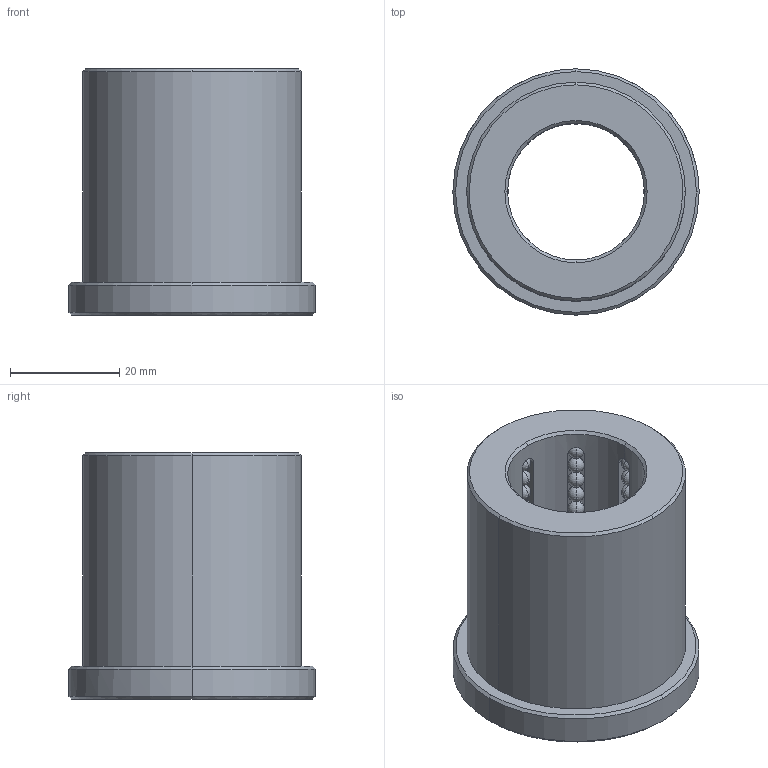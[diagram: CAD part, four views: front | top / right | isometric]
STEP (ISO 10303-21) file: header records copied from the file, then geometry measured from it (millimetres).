
FILE_DESCRIPTION(('CATIA V5 STEP Exchange'),'2;1');
FILE_NAME('C:\Users\Raffaele\Desktop\3D BOLEX\3D FILES CF BOLEX\1-BUSH REF 801\B8012545.stp','2019-06-19T13:47:29+00:00',('none'),('none'),'CATIA Version 5 Release 20 GA (IN-10)','CATIA V5 STEP AP203','none');
FILE_SCHEMA(('CONFIG_CONTROL_DESIGN'));
Length unit declared in the file: millimetre
Products named in the file (1): B8012545
Bounding box: 45 x 45 x 45 mm (x, y, z)
Volume: 35115.1 mm3; surface area: 15928.9 mm2
Topology: 97 solids, 97 shells, 453 faces, 1322 edges, 302 vertices
Faces by surface type: sphere 384, plane 27, cylinder 22, cone 20
Entity records: 8711 total; most frequent: CARTESIAN_POINT 1725, DIRECTION 1425, ORIENTED_EDGE 1108, AXIS2_PLACEMENT_3D 881, EDGE_CURVE 554, EDGE_LOOP 462, ADVANCED_FACE 453, FACE_OUTER_BOUND 453
